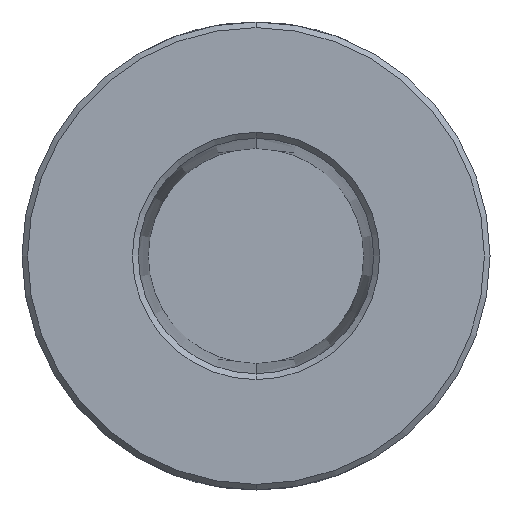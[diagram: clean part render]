
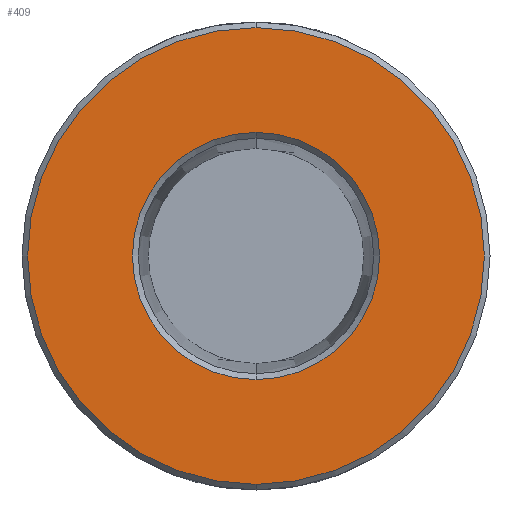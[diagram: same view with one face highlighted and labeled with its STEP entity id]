
A CAD part, front view. The second image highlights one B-rep face of the part: STEP entity #409.
In plain terms, the highlighted planar face has unit normal (0, -1, 0).
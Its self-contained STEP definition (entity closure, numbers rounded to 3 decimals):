
#4 = ORIENTED_EDGE ( 'NONE', *, *, #352, .T. ) ;
#29 = ORIENTED_EDGE ( 'NONE', *, *, #430, .T. ) ;
#38 = CARTESIAN_POINT ( 'NONE',  ( 0., 0., 0. ) ) ;
#46 = CARTESIAN_POINT ( 'NONE',  ( 0., 0., 0. ) ) ;
#62 = CIRCLE ( 'NONE', #346, 12.2 ) ;
#71 = AXIS2_PLACEMENT_3D ( 'NONE', #46, #607, #432 ) ;
#76 = AXIS2_PLACEMENT_3D ( 'NONE', #260, #478, #737 ) ;
#84 = AXIS2_PLACEMENT_3D ( 'NONE', #744, #437, #614 ) ;
#130 = EDGE_LOOP ( 'NONE', ( #4, #570 ) ) ;
#131 = CARTESIAN_POINT ( 'NONE',  ( 0., 0., 6.6 ) ) ;
#135 = CARTESIAN_POINT ( 'NONE',  ( 0., 0., -12.2 ) ) ;
#139 = CARTESIAN_POINT ( 'NONE',  ( 0., 0., 12.2 ) ) ;
#154 = VERTEX_POINT ( 'NONE', #300 ) ;
#155 = DIRECTION ( 'NONE',  ( 0., -1., 0. ) ) ;
#180 = VERTEX_POINT ( 'NONE', #131 ) ;
#203 = CIRCLE ( 'NONE', #71, 6.6 ) ;
#260 = CARTESIAN_POINT ( 'NONE',  ( 0., 0., 0. ) ) ;
#274 = DIRECTION ( 'NONE',  ( 0., 1., 0. ) ) ;
#300 = CARTESIAN_POINT ( 'NONE',  ( 0., 0., -6.6 ) ) ;
#302 = VERTEX_POINT ( 'NONE', #135 ) ;
#309 = EDGE_LOOP ( 'NONE', ( #29, #670 ) ) ;
#325 = DIRECTION ( 'NONE',  ( 0., 0., 1. ) ) ;
#346 = AXIS2_PLACEMENT_3D ( 'NONE', #609, #155, #429 ) ;
#352 = EDGE_CURVE ( 'NONE', #391, #302, #698, .T. ) ;
#391 = VERTEX_POINT ( 'NONE', #139 ) ;
#402 = EDGE_CURVE ( 'NONE', #180, #154, #203, .T. ) ;
#409 = ADVANCED_FACE ( 'NONE', ( #534, #590 ), #494, .F. ) ;
#429 = DIRECTION ( 'NONE',  ( 0., 0., 1. ) ) ;
#430 = EDGE_CURVE ( 'NONE', #154, #180, #680, .T. ) ;
#432 = DIRECTION ( 'NONE',  ( 0., 0., 1. ) ) ;
#437 = DIRECTION ( 'NONE',  ( 0., 1., 0. ) ) ;
#478 = DIRECTION ( 'NONE',  ( 0., -1., 0. ) ) ;
#494 = PLANE ( 'NONE',  #561 ) ;
#534 = FACE_BOUND ( 'NONE', #309, .T. ) ;
#561 = AXIS2_PLACEMENT_3D ( 'NONE', #38, #274, #325 ) ;
#570 = ORIENTED_EDGE ( 'NONE', *, *, #760, .T. ) ;
#590 = FACE_OUTER_BOUND ( 'NONE', #130, .T. ) ;
#607 = DIRECTION ( 'NONE',  ( 0., 1., 0. ) ) ;
#609 = CARTESIAN_POINT ( 'NONE',  ( 0., 0., 0. ) ) ;
#614 = DIRECTION ( 'NONE',  ( 0., 0., 1. ) ) ;
#670 = ORIENTED_EDGE ( 'NONE', *, *, #402, .T. ) ;
#680 = CIRCLE ( 'NONE', #84, 6.6 ) ;
#698 = CIRCLE ( 'NONE', #76, 12.2 ) ;
#737 = DIRECTION ( 'NONE',  ( 0., 0., 1. ) ) ;
#744 = CARTESIAN_POINT ( 'NONE',  ( 0., 0., 0. ) ) ;
#760 = EDGE_CURVE ( 'NONE', #302, #391, #62, .T. ) ;
